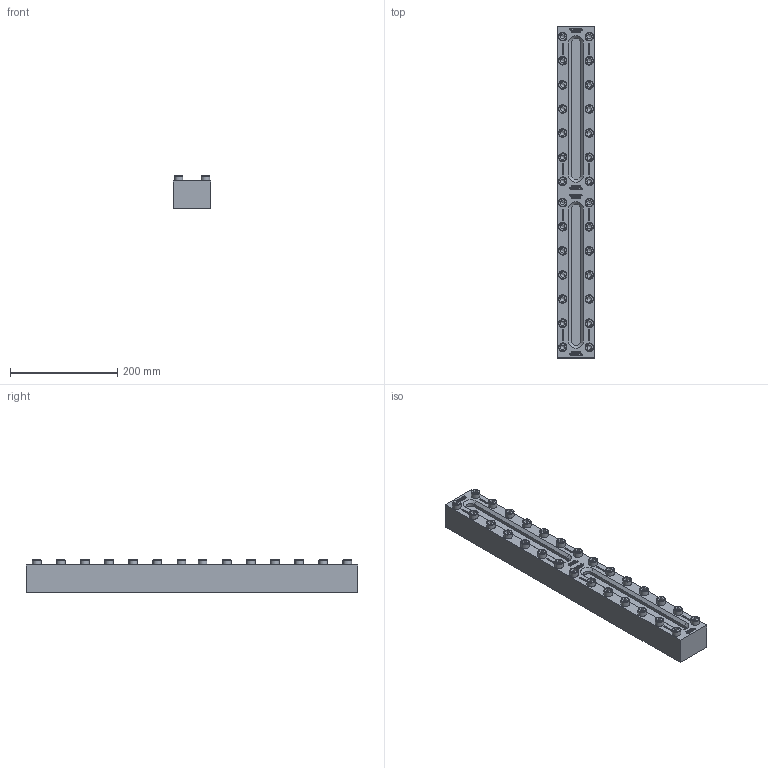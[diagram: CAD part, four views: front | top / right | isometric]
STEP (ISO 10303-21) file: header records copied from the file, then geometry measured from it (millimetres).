
FILE_DESCRIPTION(/* description */ (''),/* implementation_level */ '2;1');
FILE_NAME(/* name */ 'W:\Konstruktion_ACI\330\_Zeichnungen\STEP\ACI-330-620-16.stp',/* time_stamp */ '2022-03-01T17:20:40+01:00',/* author */ ('koslowksi'),/* organization */ (''),/* preprocessor_version */ 'ST-DEVELOPER v16.1',/* originating_system */ 'Autodesk Inventor 2016',/* authorisation */ '');
FILE_SCHEMA (('AUTOMOTIVE_DESIGN { 1 0 10303 214 3 1 1 }'));
Products named in the file (1): ACI-330-620-16.stp
Bounding box: 70 x 620 x 60.9 mm (x, y, z)
Volume: 2001970 mm3; surface area: 200343.6 mm2
Topology: 1 solids, 1 shells, 2526 faces, 6840 edges, 4548 vertices
Faces by surface type: plane 1794, bspline 636, cylinder 36, cone 32, torus 28
Full cylindrical faces by diameter (mm): 16 x28
Entity records: 83044 total; most frequent: CARTESIAN_POINT 22323, ORIENTED_EDGE 13400, DIRECTION 9146, EDGE_CURVE 6700, LINE 5156, VECTOR 5156, VERTEX_POINT 4492, EDGE_LOOP 2842
